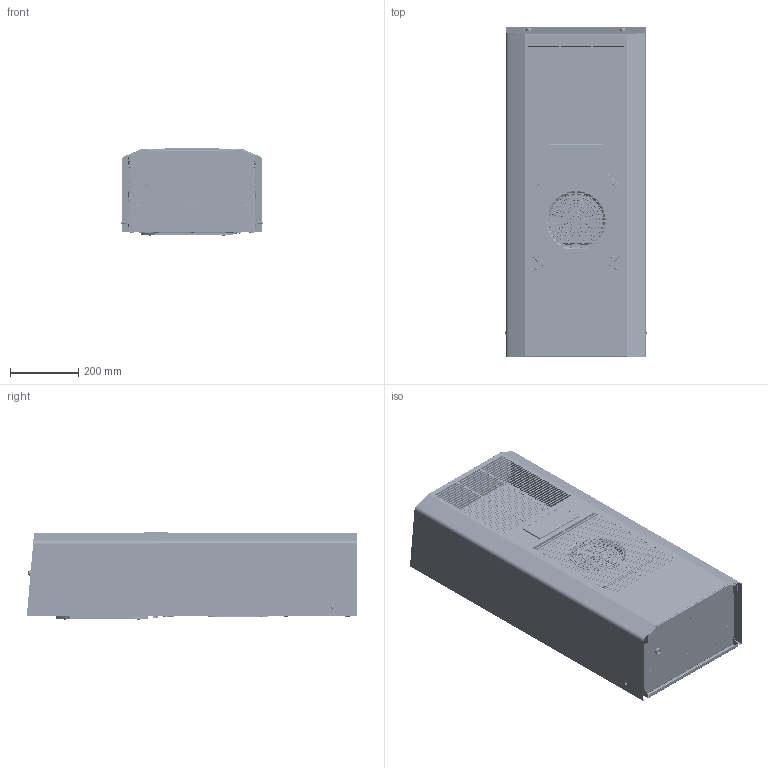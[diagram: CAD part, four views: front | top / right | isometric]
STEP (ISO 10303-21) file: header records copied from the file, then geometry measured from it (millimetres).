
FILE_DESCRIPTION (( 'STEP AP203' ), '1' );
FILE_NAME ('DTS 62-6301C 230V SC.STEP', '2016-05-11T09:43:26', ( '' ), ( '' ), 'SwSTEP 2.0', 'SolidWorks 2015', '' );
FILE_SCHEMA (( 'CONFIG_CONTROL_DESIGN' ));
Length unit declared in the file: millimetre
Products named in the file (1): DTS 62-6301C 230V SC
Bounding box: 416.05 x 967.82 x 257.02 mm (x, y, z)
Volume: 5307166 mm3; surface area: 6068791.7 mm2
Topology: 163 solids, 165 shells, 7799 faces, 21156 edges, 13582 vertices
Faces by surface type: plane 4400, cylinder 2115, bspline 639, torus 294, sphere 178, cone 173
Entity records: 286514 total; most frequent: CARTESIAN_POINT 92728, ORIENTED_EDGE 41982, DIRECTION 37282, EDGE_CURVE 20991, VERTEX_POINT 13495, LINE 13310, VECTOR 13310, AXIS2_PLACEMENT_3D 11986
